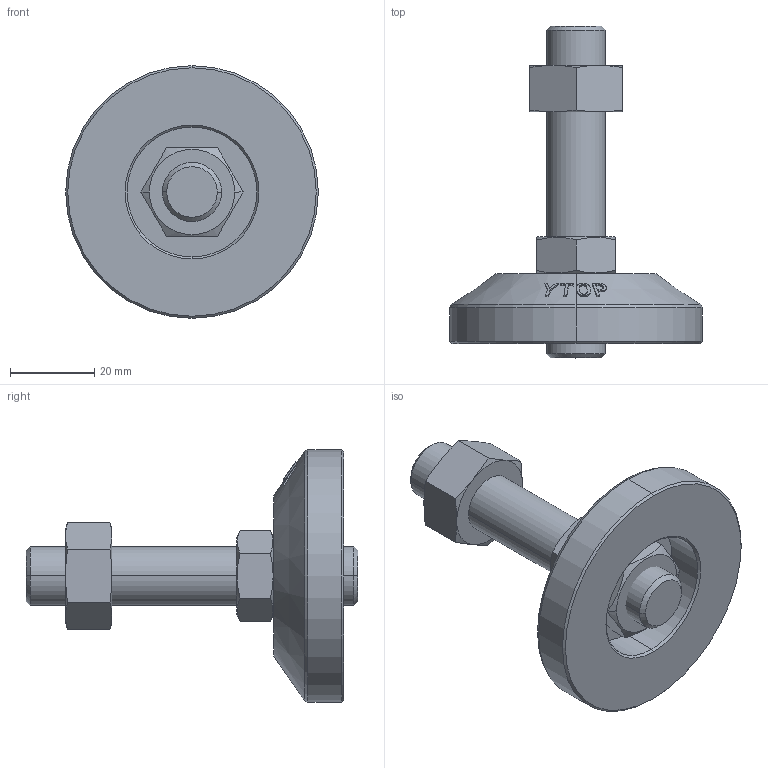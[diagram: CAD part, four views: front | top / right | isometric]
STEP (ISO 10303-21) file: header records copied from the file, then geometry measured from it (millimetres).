
FILE_DESCRIPTION (( 'STEP AP203' ), '1' );
FILE_NAME ('M-60-1450-S.STEP', '2020-09-10T06:57:16', ( '' ), ( '' ), 'SwSTEP 2.0', 'SolidWorks 2016', '' );
FILE_SCHEMA (( 'CONFIG_CONTROL_DESIGN' ));
Length unit declared in the file: millimetre
Products named in the file (5): M-60-1450-S; 脚垫调节六角螺母M14; M-60-1褐菜 ; hex thin nuts-grades ab-chamfered gb_GB_FASTENER_NUT_STNAB M14-N; 不锈钢双头螺栓M14系列_M14X50
Assembly tree (4 placements, depth 2):
  M-60-1450-S
    M-60-1褐菜 
    不锈钢双头螺栓M14系列_M14X50
    hex thin nuts-grades ab-chamfered gb_GB_FASTENER_NUT_STNAB M14-N
    脚垫调节六角螺母M14
Bounding box: 60 x 78.8 x 60 mm (x, y, z)
Volume: 50462.8 mm3; surface area: 15706 mm2
Topology: 4 solids, 4 shells, 133 faces, 308 edges, 192 vertices
Faces by surface type: cone 52, bspline 38, plane 29, cylinder 14
Entity records: 7778 total; most frequent: CARTESIAN_POINT 4617, ORIENTED_EDGE 616, DIRECTION 418, EDGE_CURVE 308, VERTEX_POINT 192, AXIS2_PLACEMENT_3D 176, B_SPLINE_CURVE_WITH_KNOTS 168, EDGE_LOOP 148
